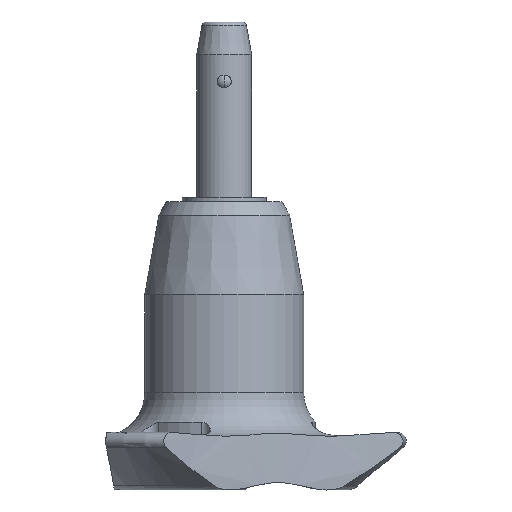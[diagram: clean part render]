
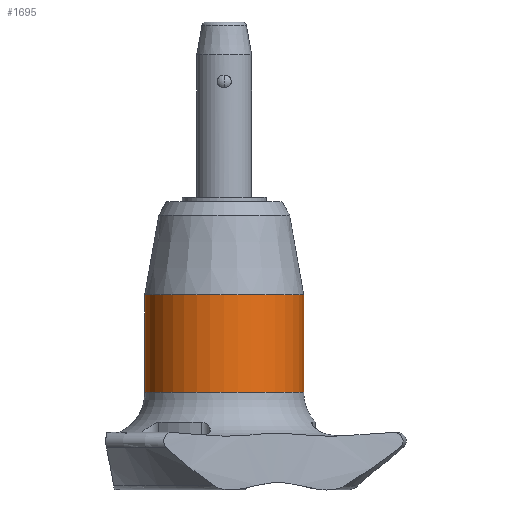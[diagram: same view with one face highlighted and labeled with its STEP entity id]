
A CAD part, front view. The second image highlights one B-rep face of the part: STEP entity #1695.
In plain terms, the highlighted cylindrical face has radius 7.25 mm (diameter 14.5 mm), a partial arc.
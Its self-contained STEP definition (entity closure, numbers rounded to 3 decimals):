
#17 = CARTESIAN_POINT ( 'NONE',  ( 7.25, 0., -18.9 ) ) ;
#31 = ORIENTED_EDGE ( 'NONE', *, *, #157, .T. ) ;
#34 = DIRECTION ( 'NONE',  ( 0., 0., -1. ) ) ;
#49 = DIRECTION ( 'NONE',  ( 0., 0., -1. ) ) ;
#157 = EDGE_CURVE ( 'NONE', #383, #1685, #1528, .T. ) ;
#227 = ORIENTED_EDGE ( 'NONE', *, *, #1249, .T. ) ;
#313 = AXIS2_PLACEMENT_3D ( 'NONE', #2270, #2013, #2256 ) ;
#383 = VERTEX_POINT ( 'NONE', #1873 ) ;
#427 = VERTEX_POINT ( 'NONE', #17 ) ;
#638 = CYLINDRICAL_SURFACE ( 'NONE', #1450, 7.25 ) ;
#752 = CIRCLE ( 'NONE', #1067, 7.25 ) ;
#809 = EDGE_LOOP ( 'NONE', ( #2462, #227, #31, #1834 ) ) ;
#883 = CIRCLE ( 'NONE', #313, 7.25 ) ;
#1020 = LINE ( 'NONE', #1255, #2096 ) ;
#1067 = AXIS2_PLACEMENT_3D ( 'NONE', #1409, #1208, #1857 ) ;
#1208 = DIRECTION ( 'NONE',  ( 0., 0., -1. ) ) ;
#1249 = EDGE_CURVE ( 'NONE', #427, #383, #752, .T. ) ;
#1255 = CARTESIAN_POINT ( 'NONE',  ( 7.25, 0., -27.8 ) ) ;
#1284 = DIRECTION ( 'NONE',  ( 0., 0., -1. ) ) ;
#1299 = FACE_OUTER_BOUND ( 'NONE', #809, .T. ) ;
#1310 = CARTESIAN_POINT ( 'NONE',  ( -7.25, 0., -27.8 ) ) ;
#1409 = CARTESIAN_POINT ( 'NONE',  ( 0., 0., -18.9 ) ) ;
#1450 = AXIS2_PLACEMENT_3D ( 'NONE', #2116, #49, #1866 ) ;
#1479 = VECTOR ( 'NONE', #1284, 1000. ) ;
#1528 = LINE ( 'NONE', #1310, #1479 ) ;
#1541 = CARTESIAN_POINT ( 'NONE',  ( 7.25, 0., -27.8 ) ) ;
#1593 = EDGE_CURVE ( 'NONE', #1900, #1685, #883, .T. ) ;
#1685 = VERTEX_POINT ( 'NONE', #2489 ) ;
#1695 = ADVANCED_FACE ( 'NONE', ( #1299 ), #638, .T. ) ;
#1834 = ORIENTED_EDGE ( 'NONE', *, *, #1593, .F. ) ;
#1857 = DIRECTION ( 'NONE',  ( -1., 0., 0. ) ) ;
#1866 = DIRECTION ( 'NONE',  ( -1., 0., 0. ) ) ;
#1873 = CARTESIAN_POINT ( 'NONE',  ( -7.25, 0., -18.9 ) ) ;
#1900 = VERTEX_POINT ( 'NONE', #1541 ) ;
#1957 = EDGE_CURVE ( 'NONE', #427, #1900, #1020, .T. ) ;
#2013 = DIRECTION ( 'NONE',  ( 0., 0., -1. ) ) ;
#2096 = VECTOR ( 'NONE', #34, 1000. ) ;
#2116 = CARTESIAN_POINT ( 'NONE',  ( 0., 0., -27.8 ) ) ;
#2256 = DIRECTION ( 'NONE',  ( -1., 0., 0. ) ) ;
#2270 = CARTESIAN_POINT ( 'NONE',  ( 0., 0., -27.8 ) ) ;
#2462 = ORIENTED_EDGE ( 'NONE', *, *, #1957, .F. ) ;
#2489 = CARTESIAN_POINT ( 'NONE',  ( -7.25, 0., -27.8 ) ) ;
